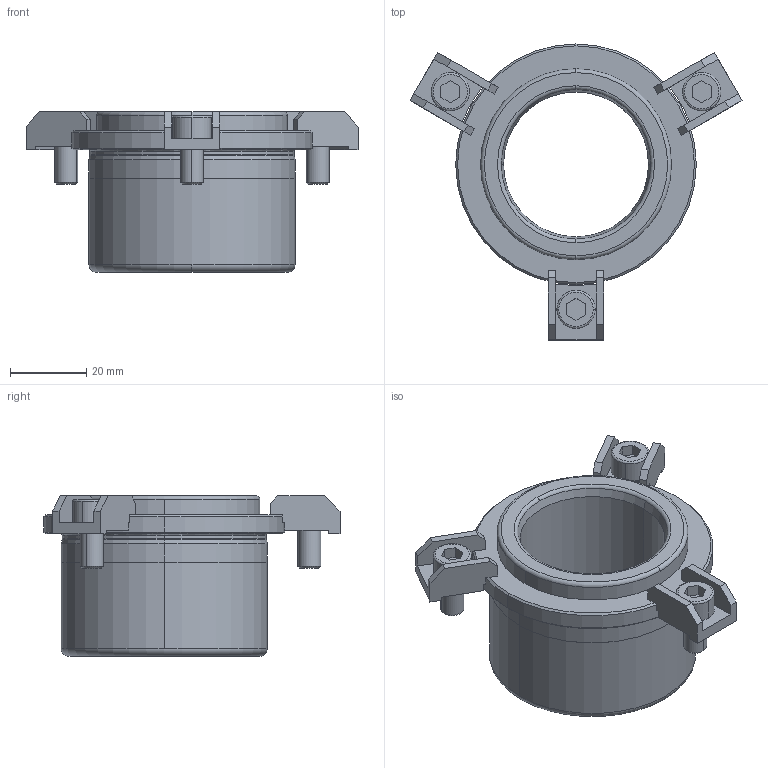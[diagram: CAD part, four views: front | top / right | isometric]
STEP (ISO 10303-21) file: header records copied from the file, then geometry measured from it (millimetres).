
FILE_DESCRIPTION((''),'2;1');
FILE_NAME('B42_030_032.stp','2008-11-04T14:29:46',(''),(''),'Mechanical Desktop 2009','Mechanical Desktop 2009',', , ');
FILE_SCHEMA(('CONFIG_CONTROL_DESIGN'));
Length unit declared in the file: millimetre
Products named in the file (2): Product; blmdl1
Assembly tree (1 placements, depth 2):
  Product
    blmdl1
Bounding box: 86.92 x 77.5 x 42 mm (x, y, z)
Volume: 55197.8 mm3; surface area: 20702.8 mm2
Topology: 7 solids, 7 shells, 185 faces, 474 edges, 312 vertices
Faces by surface type: plane 104, cylinder 39, cone 18, torus 14, bspline 10
Entity records: 6165 total; most frequent: CARTESIAN_POINT 1413, DIRECTION 1008, ORIENTED_EDGE 948, EDGE_CURVE 474, AXIS2_PLACEMENT_3D 357, VERTEX_POINT 312, VECTOR 294, LINE 294
